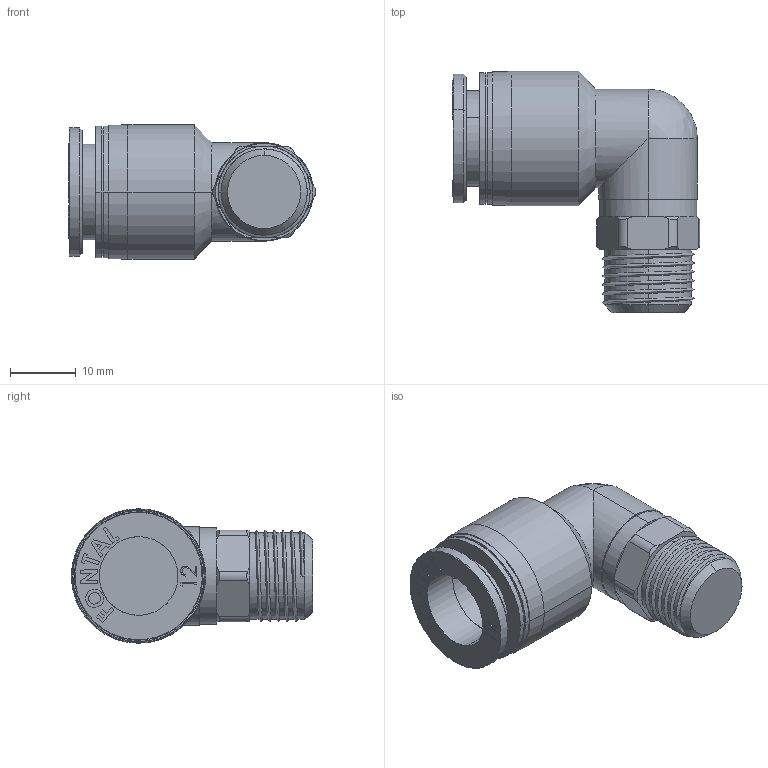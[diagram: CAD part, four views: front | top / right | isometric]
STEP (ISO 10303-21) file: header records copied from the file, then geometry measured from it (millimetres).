
FILE_DESCRIPTION (( 'STEP AP203' ), '1' );
FILE_NAME ('FPL12-02.STEP', '2016-01-14T21:02:17', ( '' ), ( '' ), 'SwSTEP 2.0', 'SolidWorks 2014', '' );
FILE_SCHEMA (( 'CONFIG_CONTROL_DESIGN' ));
Length unit declared in the file: millimetre
Products named in the file (4): FPL10-02-B; FPC12-02-A; FPL12-02; FPL12-02-A
Assembly tree (3 placements, depth 2):
  FPL12-02
    FPL12-02-A
    FPC12-02-A
    FPL10-02-B
Bounding box: 37.69 x 36.79 x 20.5 mm (x, y, z)
Volume: 9266.8 mm3; surface area: 5298.9 mm2
Topology: 3 solids, 3 shells, 179 faces, 440 edges, 282 vertices
Faces by surface type: plane 94, cylinder 42, cone 22, bspline 17, torus 4
Entity records: 8905 total; most frequent: CARTESIAN_POINT 4470, ORIENTED_EDGE 876, DIRECTION 759, EDGE_CURVE 438, VERTEX_POINT 282, VECTOR 259, LINE 259, AXIS2_PLACEMENT_3D 250
